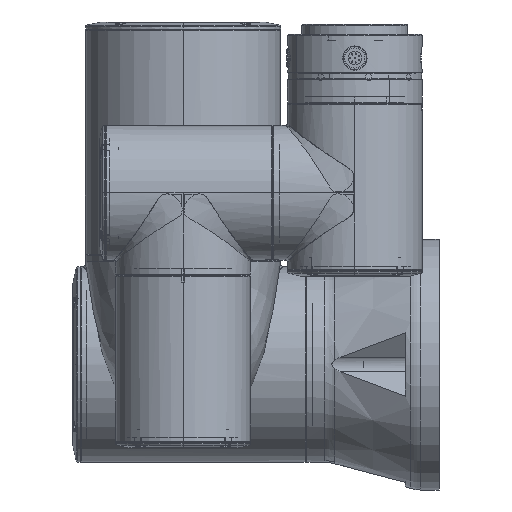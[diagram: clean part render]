
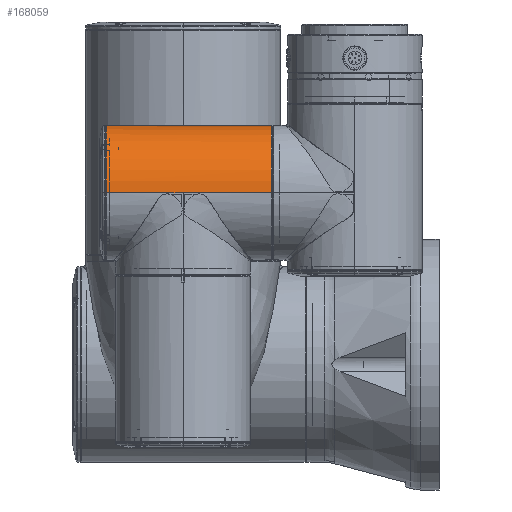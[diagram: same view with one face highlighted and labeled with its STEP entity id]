
A CAD part, left-side view. The second image highlights one B-rep face of the part: STEP entity #168059.
In plain terms, the highlighted cylindrical face has radius 40 mm (diameter 80 mm), a partial arc.
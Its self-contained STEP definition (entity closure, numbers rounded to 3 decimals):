
#612 = VERTEX_POINT ( 'NONE', #97465 ) ;
#3189 = EDGE_CURVE ( 'NONE', #83224, #612, #32272, .T. ) ;
#3303 = ORIENTED_EDGE ( 'NONE', *, *, #3189, .F. ) ;
#6894 = CARTESIAN_POINT ( 'NONE',  ( -821.015, 103., 141.987 ) ) ;
#7837 = DIRECTION ( 'NONE',  ( 0., 1., 0. ) ) ;
#8958 = DIRECTION ( 'NONE',  ( 0., -1., 0. ) ) ;
#18035 = VERTEX_POINT ( 'NONE', #172707 ) ;
#19950 = CARTESIAN_POINT ( 'NONE',  ( -821.015, 99.502, 141.987 ) ) ;
#22031 = DIRECTION ( 'NONE',  ( 0., 1., 0. ) ) ;
#24056 = LINE ( 'NONE', #182589, #65347 ) ;
#25821 = AXIS2_PLACEMENT_3D ( 'NONE', #63839, #22031, #66389 ) ;
#26750 = CIRCLE ( 'NONE', #85516, 40. ) ;
#27568 = EDGE_CURVE ( 'NONE', #174542, #147259, #149268, .T. ) ;
#27699 = VECTOR ( 'NONE', #95353, 1000. ) ;
#28997 = DIRECTION ( 'NONE',  ( 0., -1., 0. ) ) ;
#31586 = ORIENTED_EDGE ( 'NONE', *, *, #113965, .T. ) ;
#32272 = LINE ( 'NONE', #51031, #27699 ) ;
#33982 = DIRECTION ( 'NONE',  ( -1., 0., 0. ) ) ;
#34415 = VECTOR ( 'NONE', #126978, 1000. ) ;
#35478 = AXIS2_PLACEMENT_3D ( 'NONE', #39167, #8958, #184990 ) ;
#37355 = AXIS2_PLACEMENT_3D ( 'NONE', #169112, #7837, #68228 ) ;
#39167 = CARTESIAN_POINT ( 'NONE',  ( -820.01, 197.498, 102. ) ) ;
#40794 = CARTESIAN_POINT ( 'NONE',  ( -820.01, 99., 102. ) ) ;
#51031 = CARTESIAN_POINT ( 'NONE',  ( -860.01, 99., 102. ) ) ;
#54108 = LINE ( 'NONE', #77360, #173515 ) ;
#54472 = VERTEX_POINT ( 'NONE', #143437 ) ;
#54953 = CYLINDRICAL_SURFACE ( 'NONE', #137496, 40. ) ;
#56929 = ORIENTED_EDGE ( 'NONE', *, *, #95100, .T. ) ;
#63839 = CARTESIAN_POINT ( 'NONE',  ( -820.01, 99.502, 102. ) ) ;
#65347 = VECTOR ( 'NONE', #138272, 1000. ) ;
#66389 = DIRECTION ( 'NONE',  ( -1., 0., 0. ) ) ;
#68228 = DIRECTION ( 'NONE',  ( -1., 0., 0. ) ) ;
#72354 = VERTEX_POINT ( 'NONE', #19950 ) ;
#74881 = AXIS2_PLACEMENT_3D ( 'NONE', #102230, #28997, #33982 ) ;
#77360 = CARTESIAN_POINT ( 'NONE',  ( -819.005, 99., 141.987 ) ) ;
#81760 = ORIENTED_EDGE ( 'NONE', *, *, #90147, .T. ) ;
#82091 = ORIENTED_EDGE ( 'NONE', *, *, #160626, .T. ) ;
#83224 = VERTEX_POINT ( 'NONE', #110461 ) ;
#83393 = ORIENTED_EDGE ( 'NONE', *, *, #131845, .F. ) ;
#83421 = CARTESIAN_POINT ( 'NONE',  ( -820.01, 197.498, 102. ) ) ;
#83913 = DIRECTION ( 'NONE',  ( 0., 1., 0. ) ) ;
#85239 = CARTESIAN_POINT ( 'NONE',  ( -780.01, 99., 102. ) ) ;
#85516 = AXIS2_PLACEMENT_3D ( 'NONE', #83421, #111700, #172053 ) ;
#86044 = ORIENTED_EDGE ( 'NONE', *, *, #144621, .T. ) ;
#86490 = VECTOR ( 'NONE', #141231, 1000. ) ;
#87029 = ORIENTED_EDGE ( 'NONE', *, *, #131239, .F. ) ;
#87779 = VERTEX_POINT ( 'NONE', #188566 ) ;
#90147 = EDGE_CURVE ( 'NONE', #18035, #174542, #139844, .T. ) ;
#95100 = EDGE_CURVE ( 'NONE', #72354, #178088, #96230, .T. ) ;
#95353 = DIRECTION ( 'NONE',  ( 0., 1., 0. ) ) ;
#96230 = LINE ( 'NONE', #128919, #155862 ) ;
#97465 = CARTESIAN_POINT ( 'NONE',  ( -860.01, 197.498, 102. ) ) ;
#100316 = LINE ( 'NONE', #170132, #86490 ) ;
#100321 = ORIENTED_EDGE ( 'NONE', *, *, #133272, .T. ) ;
#102230 = CARTESIAN_POINT ( 'NONE',  ( -820.01, 103., 102. ) ) ;
#102968 = VERTEX_POINT ( 'NONE', #188105 ) ;
#107529 = DIRECTION ( 'NONE',  ( 0., -1., 0. ) ) ;
#107628 = ORIENTED_EDGE ( 'NONE', *, *, #121250, .T. ) ;
#108951 = CIRCLE ( 'NONE', #74881, 40. ) ;
#110461 = CARTESIAN_POINT ( 'NONE',  ( -860.01, 152., 102. ) ) ;
#111700 = DIRECTION ( 'NONE',  ( 0., -1., 0. ) ) ;
#112778 = DIRECTION ( 'NONE',  ( -1., 0., 0. ) ) ;
#113965 = EDGE_CURVE ( 'NONE', #54472, #72354, #173764, .T. ) ;
#114415 = ORIENTED_EDGE ( 'NONE', *, *, #27568, .T. ) ;
#121250 = EDGE_CURVE ( 'NONE', #102968, #18035, #54108, .T. ) ;
#123840 = FACE_OUTER_BOUND ( 'NONE', #145596, .T. ) ;
#125552 = CARTESIAN_POINT ( 'NONE',  ( -780.01, 197.498, 102. ) ) ;
#126978 = DIRECTION ( 'NONE',  ( 0., 1., 0. ) ) ;
#127043 = CIRCLE ( 'NONE', #35478, 40. ) ;
#128868 = DIRECTION ( 'NONE',  ( 0., 1., 0. ) ) ;
#128919 = CARTESIAN_POINT ( 'NONE',  ( -821.015, 99., 141.987 ) ) ;
#131239 = EDGE_CURVE ( 'NONE', #54472, #83224, #24056, .T. ) ;
#131845 = EDGE_CURVE ( 'NONE', #102968, #178088, #108951, .T. ) ;
#132483 = CARTESIAN_POINT ( 'NONE',  ( -780.01, 99.502, 102. ) ) ;
#133272 = EDGE_CURVE ( 'NONE', #87779, #612, #127043, .T. ) ;
#137001 = VERTEX_POINT ( 'NONE', #125552 ) ;
#137496 = AXIS2_PLACEMENT_3D ( 'NONE', #40794, #128868, #112778 ) ;
#138272 = DIRECTION ( 'NONE',  ( 0., 1., 0. ) ) ;
#139187 = CARTESIAN_POINT ( 'NONE',  ( -780.01, 152., 102. ) ) ;
#139844 = CIRCLE ( 'NONE', #25821, 40. ) ;
#141231 = DIRECTION ( 'NONE',  ( 0., 1., 0. ) ) ;
#143437 = CARTESIAN_POINT ( 'NONE',  ( -860.01, 99.502, 102. ) ) ;
#144621 = EDGE_CURVE ( 'NONE', #147259, #137001, #100316, .T. ) ;
#145596 = EDGE_LOOP ( 'NONE', ( #81760, #114415, #86044, #82091, #100321, #3303, #87029, #31586, #56929, #83393, #107628 ) ) ;
#147259 = VERTEX_POINT ( 'NONE', #139187 ) ;
#149268 = LINE ( 'NONE', #85239, #34415 ) ;
#155862 = VECTOR ( 'NONE', #83913, 1000. ) ;
#160626 = EDGE_CURVE ( 'NONE', #137001, #87779, #26750, .T. ) ;
#168059 = ADVANCED_FACE ( 'NONE', ( #123840 ), #54953, .T. ) ;
#169112 = CARTESIAN_POINT ( 'NONE',  ( -820.01, 99.502, 102. ) ) ;
#170132 = CARTESIAN_POINT ( 'NONE',  ( -780.01, 99., 102. ) ) ;
#172053 = DIRECTION ( 'NONE',  ( -1., 0., 0. ) ) ;
#172707 = CARTESIAN_POINT ( 'NONE',  ( -819.005, 99.502, 141.987 ) ) ;
#173515 = VECTOR ( 'NONE', #107529, 1000. ) ;
#173764 = CIRCLE ( 'NONE', #37355, 40. ) ;
#174542 = VERTEX_POINT ( 'NONE', #132483 ) ;
#178088 = VERTEX_POINT ( 'NONE', #6894 ) ;
#182589 = CARTESIAN_POINT ( 'NONE',  ( -860.01, 99., 102. ) ) ;
#184990 = DIRECTION ( 'NONE',  ( -1., 0., 0. ) ) ;
#188105 = CARTESIAN_POINT ( 'NONE',  ( -819.005, 103., 141.987 ) ) ;
#188566 = CARTESIAN_POINT ( 'NONE',  ( -820.01, 197.498, 142. ) ) ;
